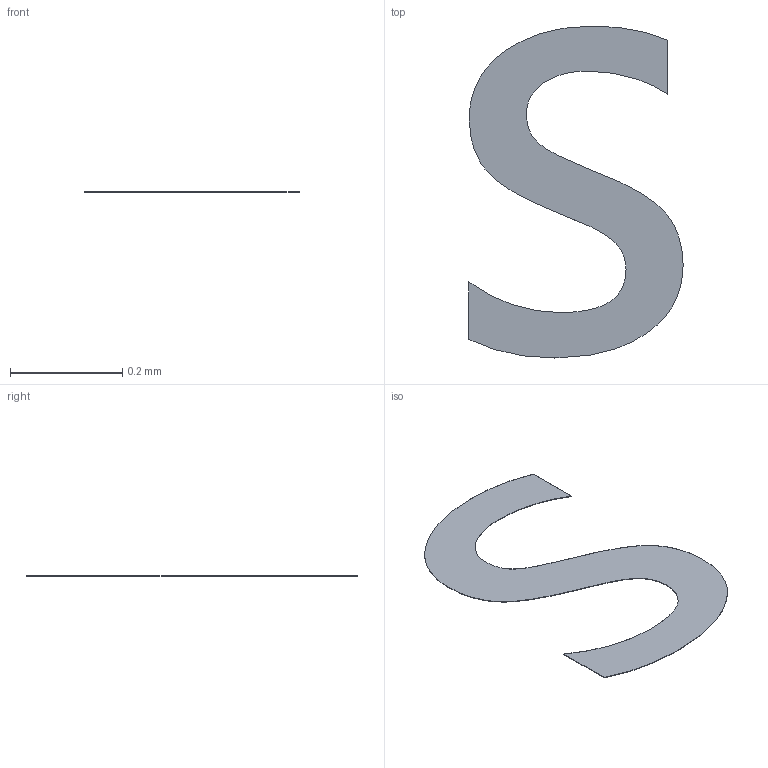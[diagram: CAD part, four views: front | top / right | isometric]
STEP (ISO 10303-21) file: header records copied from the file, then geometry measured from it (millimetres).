
FILE_DESCRIPTION(/* description */ ('STEP AP242 Edition 2','CAx-IF Rec.Pracs.---Representation and Presentation of Product Manufacturing Information (PMI)---4.0---2014-10-13','CAx-IF Rec.Pracs.---3D Tessellated Geometry---0.4---2014-09-14','2;1','CAx-IF Rec.Pracs.---User Defined Attributes---1.5---2016-08-15'),/* implementation_level */ '2;1');
FILE_NAME(/* name */ 'Assembly 1 - I2CLCD16X2~MODULE-TH_LCM1602K~nxQB (8)',/* time_stamp */ '2026-04-02T09:55:15Z',/* author */ (''),/* organization */ (''),/* preprocessor_version */ 'ST-DEVELOPER v20',/* originating_system */ 'ONSHAPE BY PTC INC, 1.212',/* authorisation */ ' ');
FILE_SCHEMA (('AP242_MANAGED_MODEL_BASED_3D_ENGINEERING_MIM_LF { 1 0 10303 442 3 1 4 }'));
Length unit declared in the file: metre
Products named in the file (1): I2CLCD16X2~MODULE-TH_LCM1602K~nxQB
Bounding box: 0.38 x 0.59 x 0 mm (x, y, z)
Volume: 0 mm3; surface area: 0.2 mm2
Topology: 1 solids, 1 shells, 23 faces, 63 edges, 42 vertices
Faces by surface type: bspline 18, plane 4, cylinder 1
Entity records: 1011 total; most frequent: CARTESIAN_POINT 363, ORIENTED_EDGE 126, EDGE_CURVE 63, VERTEX_POINT 42, DIRECTION 41, B_SPLINE_CURVE_WITH_KNOTS 36, LINE 25, VECTOR 25
